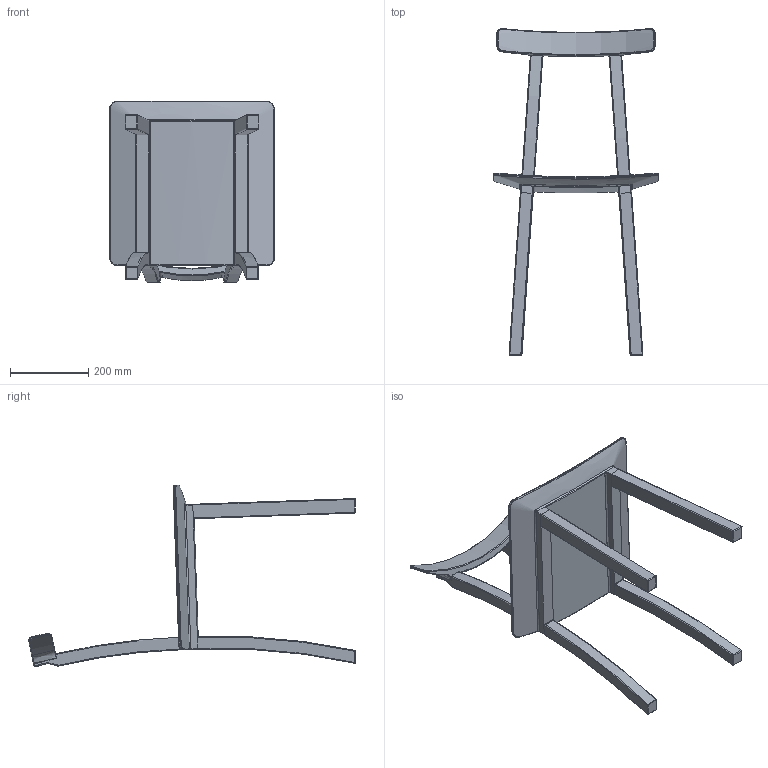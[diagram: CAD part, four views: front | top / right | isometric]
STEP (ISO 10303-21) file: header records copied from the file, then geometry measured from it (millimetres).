
FILE_DESCRIPTION (( 'STEP AP203' ), '1' );
FILE_NAME ('NERVOSA CHAIR.STEP', '2023-03-21T13:01:37', ( '' ), ( '' ), 'SwSTEP 2.0', 'SolidWorks 2023', '' );
FILE_SCHEMA (( 'CONFIG_CONTROL_DESIGN' ));
Length unit declared in the file: millimetre
Products named in the file (2): Group1^NERVOSA CHAIR; NERVOSA CHAIR
Assembly tree (1 placements, depth 2):
  NERVOSA CHAIR
    Group1^NERVOSA CHAIR
Bounding box: 420.83 x 833.82 x 463.7 mm (x, y, z)
Volume: 7099607.1 mm3; surface area: 759642.6 mm2
Topology: 1 solids, 1 shells, 306 faces, 762 edges, 442 vertices
Faces by surface type: cylinder 118, bspline 67, plane 58, torus 37, sphere 26
Entity records: 15093 total; most frequent: CARTESIAN_POINT 8292, ORIENTED_EDGE 1472, DIRECTION 1330, EDGE_CURVE 736, AXIS2_PLACEMENT_3D 548, VERTEX_POINT 430, ADVANCED_FACE 306, EDGE_LOOP 306
